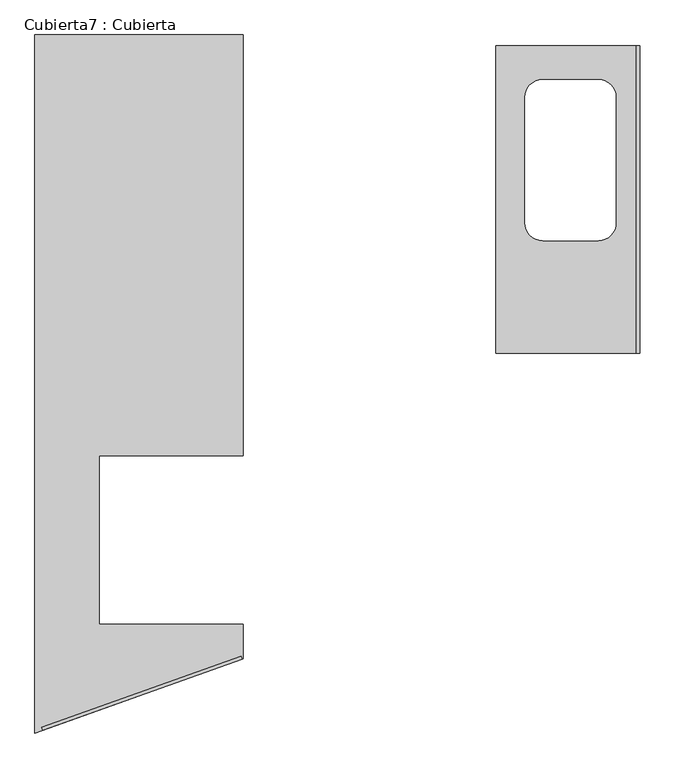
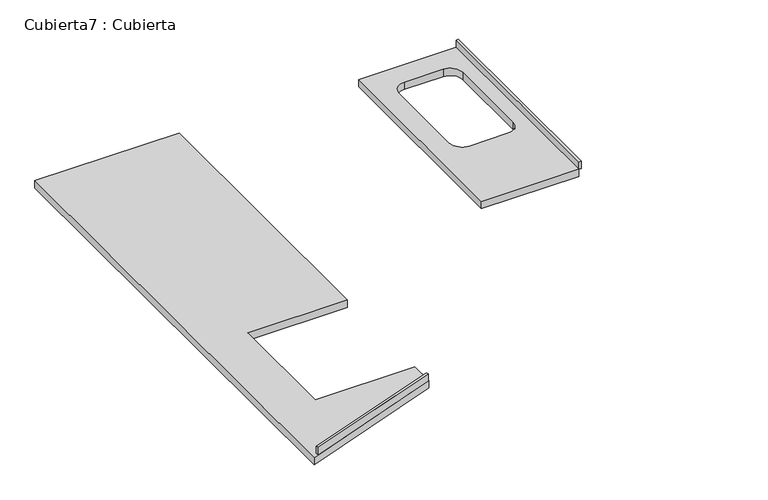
"""IFC4 building model written with IfcOpenShell, lengths in millimetres: furniture geometry, Cubierta7 : Cubierta."""

from ifc_helpers import new_model, si_unit, frame, origin, place, context, project, spatial, polyline, circle_curve, outline, extrude, faceted_brep, source, transform, mapped, element, save
from ifc_brep_helpers import plane_surface, revolved_surface, advanced_brep


def cubierta7_cubierta_ab978bd7(model_context):
    return source(origin(), model_context, "Body", "SolidModel", [
        extrude(outline(polyline([(49330.9742496, 26667.5827575), (49325.9390958, 26681.7124152), (50225.3734137, 27002.2290366), (50230.4085675, 26988.0993789), (49330.9742496, 26667.5827575)])), frame((0.0, 0.0, 9900.0), z_axis=(0.0, 0.0, 1.0), x_axis=(1.0, 0.0, 0.0)), (0.0, 0.0, 1.0), 50.0),
        faceted_brep([(49294.5059119, 29804.010184, 9900.0), (49294.5059119, 26654.5871355, 9900.0), (50234.5059119, 26989.5594822, 9900.0), (50234.5059119, 27145.7129416, 9900.0), (49584.5059119, 27145.7129416, 9900.0), (49584.5059119, 27905.7129416, 9900.0), (50234.5059119, 27905.7129416, 9900.0), (50234.5059119, 29804.010184, 9900.0), (49294.5059119, 29804.010184, 9850.0), (50234.5059119, 29804.010184, 9850.0), (50234.5059119, 27905.7129416, 9850.0), (49584.5059119, 27905.7129416, 9850.0), (49584.5059119, 27145.7129416, 9850.0), (50234.5059119, 27145.7129416, 9850.0), (50234.5059119, 26989.5594822, 9850.0), (49294.5059119, 26654.5871355, 9850.0)], [[[0, 1, 2, 3, 4, 5, 6, 7]], [[8, 9, 10, 11, 12, 13, 14, 15]], [[1, 0, 8, 15]], [[7, 6, 10, 9]], [[0, 7, 9, 8]], [[2, 1, 15, 14]], [[3, 2, 14, 13]], [[4, 3, 13, 12]], [[5, 4, 12, 11]], [[6, 5, 11, 10]]]),
        advanced_brep(
        [(52009.4822189, 29754.010184, 9900.0), (51374.4822189, 29754.010184, 9900.0), (51374.4822189, 28368.8532187, 9900.0), (52009.4822189, 28368.8532187, 9900.0), (51586.9822189, 29602.8532187, 9900.0), (51836.9822189, 29602.8532187, 9900.0), (51917.9822189, 29521.8532187, 9900.0), (51917.9822189, 28956.8532187, 9900.0), (51836.9822189, 28875.8532187, 9900.0), (51586.9822189, 28875.8532187, 9900.0), (51505.9822189, 28956.8532187, 9900.0), (51505.9822189, 29521.8532187, 9900.0), (52009.4822189, 29754.010184, 9850.0), (52009.4822189, 28368.8532187, 9850.0), (51374.4822189, 28368.8532187, 9850.0), (51374.4822189, 29754.010184, 9850.0), (51586.9822189, 29602.8532187, 9850.0), (51505.9822189, 29521.8532187, 9850.0), (51505.9822189, 28956.8532187, 9850.0), (51586.9822189, 28875.8532187, 9850.0), (51836.9822189, 28875.8532187, 9850.0), (51917.9822189, 28956.8532187, 9850.0), (51917.9822189, 29521.8532187, 9850.0), (51836.9822189, 29602.8532187, 9850.0), (52009.4822189, 29754.010184, 9950.0), (52024.4822189, 29754.010184, 9950.0), (52024.4822189, 29754.010184, 9900.0), (52009.4822189, 28368.8532187, 9950.0), (52024.4822189, 28368.8532187, 9950.0), (52024.4822189, 28368.8532187, 9900.0)],
        [
            (0, 1),
            (1, 2),
            (2, 3),
            (3, 0),
            (4, 5),
            (5, 6, circle_curve(frame((51836.9822189, 29521.8532187, 9900.0), z_axis=(0.0, 0.0, -1.0), x_axis=(0.0, -1.0, 0.0)), 81.0)),
            (6, 7),
            (7, 8, circle_curve(frame((51836.9822189, 28956.8532187, 9900.0), z_axis=(0.0, 0.0, -1.0), x_axis=(0.0, -1.0, 0.0)), 81.0)),
            (8, 9),
            (9, 10, circle_curve(frame((51586.9822189, 28956.8532187, 9900.0), z_axis=(0.0, 0.0, -1.0), x_axis=(0.0, -1.0, 0.0)), 81.0)),
            (10, 11),
            (11, 4, circle_curve(frame((51586.9822189, 29521.8532187, 9900.0), z_axis=(0.0, 0.0, -1.0), x_axis=(0.0, -1.0, 0.0)), 81.0)),
            (12, 13),
            (13, 14),
            (14, 15),
            (15, 12),
            (16, 17, circle_curve(frame((51586.9822189, 29521.8532187, 9850.0), z_axis=(0.0, 0.0, 1.0), x_axis=(0.0, -1.0, 0.0)), 81.0)),
            (17, 18),
            (18, 19, circle_curve(frame((51586.9822189, 28956.8532187, 9850.0), z_axis=(0.0, 0.0, 1.0), x_axis=(0.0, -1.0, 0.0)), 81.0)),
            (19, 20),
            (20, 21, circle_curve(frame((51836.9822189, 28956.8532187, 9850.0), z_axis=(0.0, 0.0, 1.0), x_axis=(0.0, -1.0, 0.0)), 81.0)),
            (21, 22),
            (22, 23, circle_curve(frame((51836.9822189, 29521.8532187, 9850.0), z_axis=(0.0, 0.0, 1.0), x_axis=(0.0, -1.0, 0.0)), 81.0)),
            (23, 16),
            (24, 25),
            (25, 26),
            (26, 0),
            (0, 24),
            (24, 27),
            (27, 28),
            (28, 25),
            (28, 29),
            (29, 26),
            (29, 3),
            (3, 0),
            (3, 27),
            (0, 12),
            (15, 1),
            (14, 2),
            (13, 3),
            (4, 16),
            (23, 5),
            (22, 6),
            (21, 7),
            (20, 8),
            (19, 9),
            (18, 10),
            (17, 11),
        ],
        [
            plane_surface(frame((49294.5059119, 28752.7644803, 9900.0), z_axis=(0.0, 0.0, 1.0), x_axis=(0.0, -1.0, 0.0))),
            plane_surface(frame((49294.5059119, 28752.7644803, 9850.0), z_axis=(0.0, 0.0, -1.0), x_axis=(0.0, 1.0, 0.0))),
            plane_surface(frame((52009.4822189, 29754.010184, 9000.0), z_axis=(0.0, 1.0, 0.0), x_axis=(0.0, 0.0, 1.0))),
            plane_surface(frame((52009.4822189, 29754.010184, 9950.0), z_axis=(0.0, 0.0, 1.0), x_axis=(0.0, -1.0, 0.0))),
            plane_surface(frame((52024.4822189, 29754.010184, 9950.0), z_axis=(1.0, 0.0, 0.0), x_axis=(0.0, -1.0, 0.0))),
            plane_surface(frame((52024.4822189, 29754.010184, 9900.0), z_axis=(0.0, 0.0, -1.0), x_axis=(0.0, -1.0, 0.0))),
            plane_surface(frame((52009.4822189, 29754.010184, 9900.0), z_axis=(-1.0, 0.0, 0.0), x_axis=(0.0, -1.0, 0.0))),
            plane_surface(frame((52009.4822189, 28368.8532187, 9000.0), z_axis=(0.0, -1.0, 0.0), x_axis=(0.0, 0.0, 1.0))),
            plane_surface(frame((52009.4822189, 29754.010184, 9900.0), z_axis=(0.0, 1.0, 0.0), x_axis=(0.0, 0.0, -1.0))),
            plane_surface(frame((51374.4822189, 29754.010184, 9900.0), z_axis=(-1.0, 0.0, 0.0), x_axis=(0.0, 0.0, -1.0))),
            plane_surface(frame((51374.4822189, 28368.8532187, 9900.0), z_axis=(0.0, -1.0, 0.0), x_axis=(0.0, 0.0, -1.0))),
            plane_surface(frame((52009.4822189, 28368.8532187, 9900.0), z_axis=(1.0, 0.0, 0.0), x_axis=(0.0, 0.0, -1.0))),
            plane_surface(frame((51586.9822189, 29602.8532187, 9900.0), z_axis=(0.0, -1.0, 0.0), x_axis=(0.0, 0.0, -1.0))),
            revolved_surface(polyline([(51836.9822189, 29440.8532187, 9850.0), (51836.9822189, 29440.8532187, 9900.0)]), (51836.9822189, 29521.8532187, 9000.0), (0.0, 0.0, -1.0)),
            plane_surface(frame((51917.9822189, 29521.8532187, 9900.0), z_axis=(-1.0, 0.0, 0.0), x_axis=(0.0, 0.0, -1.0))),
            revolved_surface(polyline([(51836.9822189, 28875.8532187, 9850.0), (51836.9822189, 28875.8532187, 9900.0)]), (51836.9822189, 28956.8532187, 9000.0), (0.0, 0.0, -1.0)),
            plane_surface(frame((51836.9822189, 28875.8532187, 9900.0), z_axis=(0.0, 1.0, 0.0), x_axis=(0.0, 0.0, -1.0))),
            revolved_surface(polyline([(51586.9822189, 28875.8532187, 9850.0), (51586.9822189, 28875.8532187, 9900.0)]), (51586.9822189, 28956.8532187, 9000.0), (0.0, 0.0, -1.0)),
            plane_surface(frame((51505.9822189, 28956.8532187, 9900.0), z_axis=(1.0, 0.0, 0.0), x_axis=(0.0, 0.0, -1.0))),
            revolved_surface(polyline([(51586.9822189, 29440.8532187, 9850.0), (51586.9822189, 29440.8532187, 9900.0)]), (51586.9822189, 29521.8532187, 9000.0), (0.0, 0.0, -1.0)),
        ],
        [
            (0, [[1, 2, 3, 4], [5, 6, 7, 8, 9, 10, 11, 12]]),
            (1, [[13, 14, 15, 16], [17, 18, 19, 20, 21, 22, 23, 24]]),
            (2, [[25, 26, 27, 28]]),
            (3, [[-25, 29, 30, 31]]),
            (4, [[-26, -31, 32, 33]]),
            (5, [[-27, -33, 34, 35]]),
            (6, [[-28, -4, 36, -29]]),
            (7, [[-30, -36, -34, -32]]),
            (8, [[-1, 37, -16, 38]]),
            (9, [[-2, -38, -15, 39]]),
            (10, [[-3, -39, -14, 40]]),
            (11, [[-13, -37, -35, -40]]),
            (12, [[-5, 41, -24, 42]]),
            (13, [[-6, -42, -23, 43]]),
            (14, [[-7, -43, -22, 44]]),
            (15, [[-8, -44, -21, 45]]),
            (16, [[-9, -45, -20, 46]]),
            (17, [[-10, -46, -19, 47]]),
            (18, [[-11, -47, -18, 48]]),
            (19, [[-12, -48, -17, -41]]),
        ],
    ),
    ])


if __name__ == "__main__":
    model = new_model("IFC4")
    model_context = context("Model", 3, world=origin())
    ifc_project = project(units=[si_unit("LENGTHUNIT", "METRE", prefix="MILLI")], contexts=[model_context])
    site = spatial("IfcSite", under=ifc_project)
    building = spatial("IfcBuilding", under=site)
    placement = place(None, origin())
    cubierta7_cubierta_shape = cubierta7_cubierta_ab978bd7(model_context)
    element("IfcFurniture", 1, ObjectType="Cubierta7 : Cubierta", at=placement, inside=building, context=model_context, shape_type="MappedRepresentation", body=[
        mapped(cubierta7_cubierta_shape, transform((0.0, 0.0, 0.0), x_axis=(1.0, 0.0, 0.0), y_axis=(0.0, 1.0, 0.0), z_axis=(0.0, 0.0, 1.0))),
    ])
    save(model, "model.ifc")
